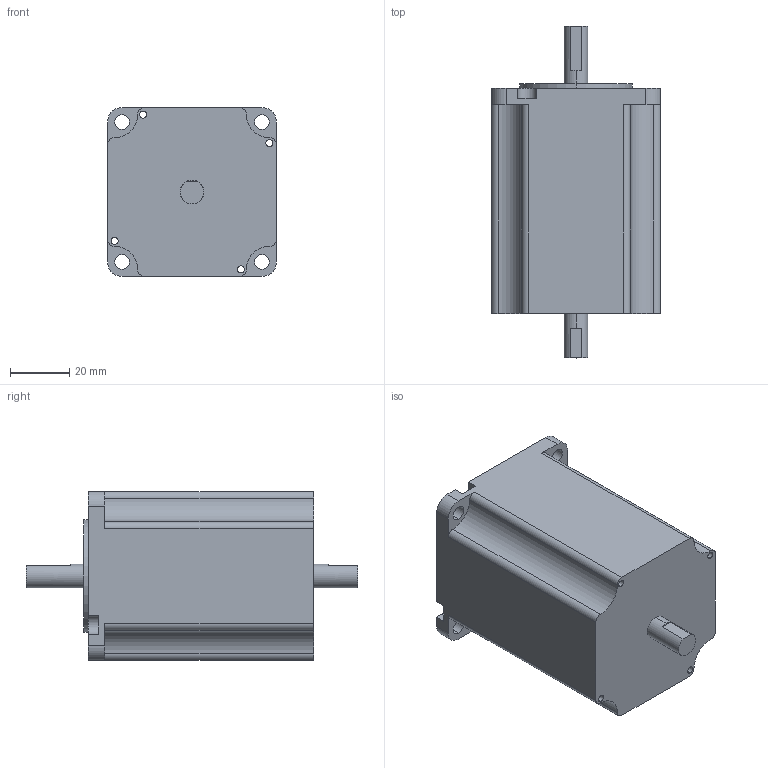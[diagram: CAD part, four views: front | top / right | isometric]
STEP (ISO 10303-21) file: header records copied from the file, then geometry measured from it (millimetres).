
FILE_DESCRIPTION (( 'STEP AP214' ), '1' );
FILE_NAME ('57A1-D（57HS76-DC0621-013）.STEP', '2020-06-08T08:34:57', ( 'AutoBVT' ), ( 'Microsoft' ), 'SwSTEP 2.0', 'SolidWorks 2014', '' );
FILE_SCHEMA (( 'AUTOMOTIVE_DESIGN' ));
Length unit declared in the file: millimetre
Products named in the file (1): 57A1-D（57HS76-DC0621-013）
Bounding box: 57 x 112 x 57 mm (x, y, z)
Volume: 220916.6 mm3; surface area: 26067.1 mm2
Topology: 1 solids, 1 shells, 78 faces, 213 edges, 142 vertices
Faces by surface type: cylinder 47, plane 31
Entity records: 2581 total; most frequent: DIRECTION 469, CARTESIAN_POINT 434, ORIENTED_EDGE 426, EDGE_CURVE 213, AXIS2_PLACEMENT_3D 177, VERTEX_POINT 142, VECTOR 115, LINE 115
